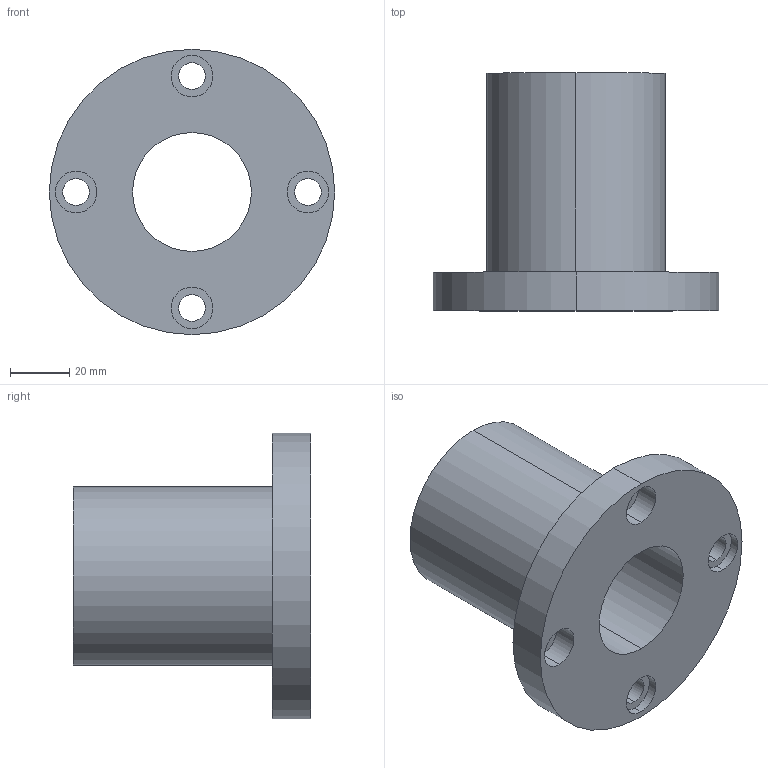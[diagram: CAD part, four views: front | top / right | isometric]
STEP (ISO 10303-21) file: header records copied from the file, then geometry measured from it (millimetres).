
FILE_DESCRIPTION (( 'STEP AP214' ), '1' );
FILE_NAME ('2.7040 Lineaarilaakeri LMF40UU.STEP', '2024-06-19T11:07:21', ( '' ), ( '' ), 'SwSTEP 2.0', 'SolidWorks 2024', '' );
FILE_SCHEMA (( 'AUTOMOTIVE_DESIGN' ));
Length unit declared in the file: millimetre
Products named in the file (1): 2.7040 Lineaarilaakeri LMF40UU
Bounding box: 96 x 80 x 96 mm (x, y, z)
Volume: 177672.8 mm3; surface area: 39879.4 mm2
Topology: 1 solids, 1 shells, 29 faces, 66 edges, 44 vertices
Faces by surface type: cylinder 22, plane 7
Entity records: 887 total; most frequent: DIRECTION 170, CARTESIAN_POINT 140, ORIENTED_EDGE 132, AXIS2_PLACEMENT_3D 74, EDGE_CURVE 66, EDGE_LOOP 44, CIRCLE 44, VERTEX_POINT 44
